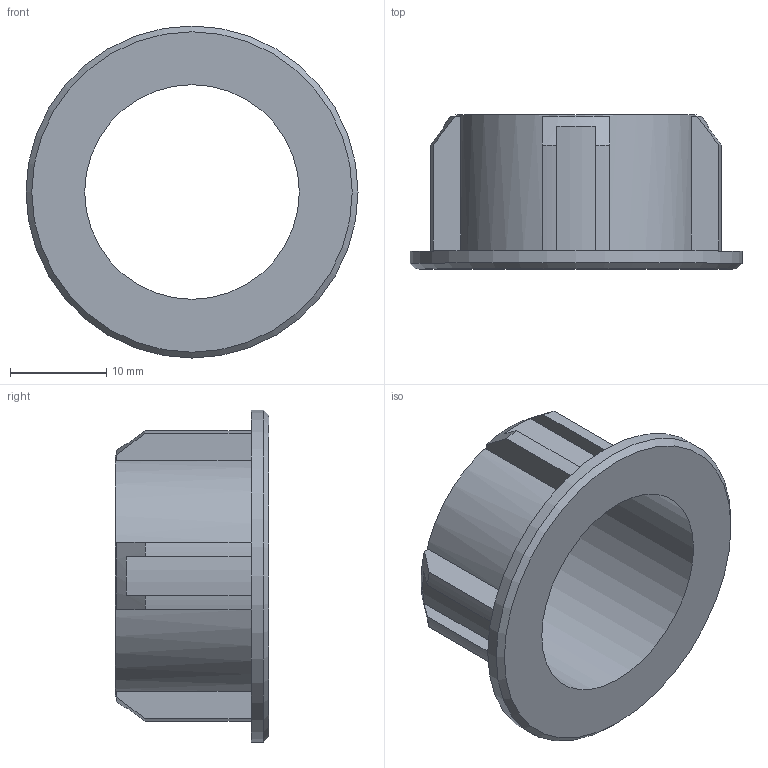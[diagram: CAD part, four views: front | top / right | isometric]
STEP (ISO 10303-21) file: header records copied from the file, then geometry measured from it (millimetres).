
FILE_DESCRIPTION(/* description */ (''),/* implementation_level */ '2;1');
FILE_NAME(/* name */ 'C:\Users\gm\Desktop\Rosette 3085.stp',/* time_stamp */ '2023-01-18T16:23:01+01:00',/* author */ ('gm'),/* organization */ (''),/* preprocessor_version */ 'ST-DEVELOPER v17.2',/* originating_system */ 'Autodesk Inventor 2019',/* authorisation */ '');
FILE_SCHEMA (('AUTOMOTIVE_DESIGN { 1 0 10303 214 3 1 1 }'));
Length unit declared in the file: millimetre
Products named in the file (1): Rosette 3085
Bounding box: 34.5 x 16 x 34.5 mm (x, y, z)
Volume: 3124.4 mm3; surface area: 3886.6 mm2
Topology: 1 solids, 1 shells, 43 faces, 124 edges, 84 vertices
Faces by surface type: plane 23, cylinder 15, cone 5
Full cylindrical faces by diameter (mm): 22.3 x1, 25 x1, 34.5 x1
Entity records: 1467 total; most frequent: CARTESIAN_POINT 284, ORIENTED_EDGE 248, DIRECTION 244, EDGE_CURVE 124, AXIS2_PLACEMENT_3D 92, VERTEX_POINT 84, LINE 60, VECTOR 60
